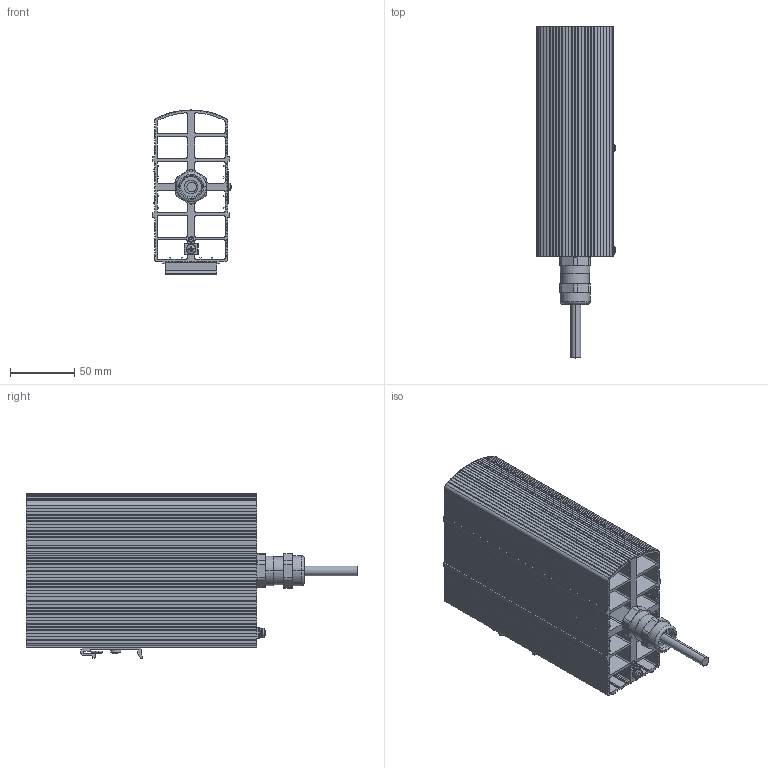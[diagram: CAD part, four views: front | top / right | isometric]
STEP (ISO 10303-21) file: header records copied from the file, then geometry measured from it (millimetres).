
FILE_DESCRIPTION (( 'STEP AP214' ), '1' );
FILE_NAME ('02033.x-0x_Ex-Heizgeraet.STEP', '2017-08-08T13:40:45', ( '' ), ( '' ), 'SwSTEP 2.0', 'SolidWorks 2017', '' );
FILE_SCHEMA (( 'AUTOMOTIVE_DESIGN' ));
Length unit declared in the file: millimetre
Products named in the file (1): 02033.x-0x_Ex-Heizgeraet
Bounding box: 61.42 x 259 x 128 mm (x, y, z)
Surface area: 262931.8 mm2 (no closed solid volume)
Topology: 0 solids, 15 shells, 781 faces, 2703 edges, 1828 vertices
Faces by surface type: plane 563, cylinder 155, cone 36, torus 18, sphere 8, bspline 1
Entity records: 37750 total; most frequent: CARTESIAN_POINT 5958, ORIENTED_EDGE 4763, DIRECTION 4607, EDGE_CURVE 2703, LINE 2119, VECTOR 2119, VERTEX_POINT 1828, AXIS2_PLACEMENT_3D 1244
